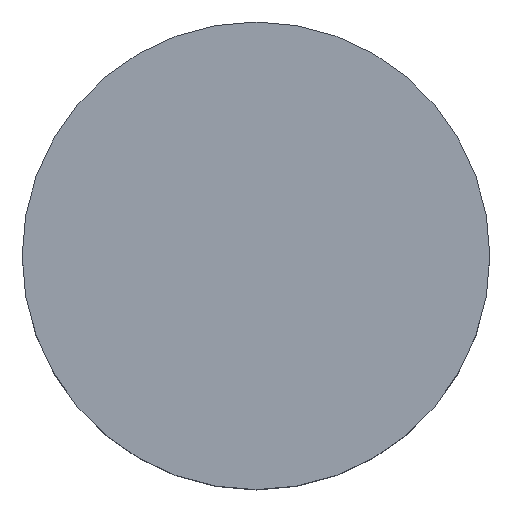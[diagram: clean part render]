
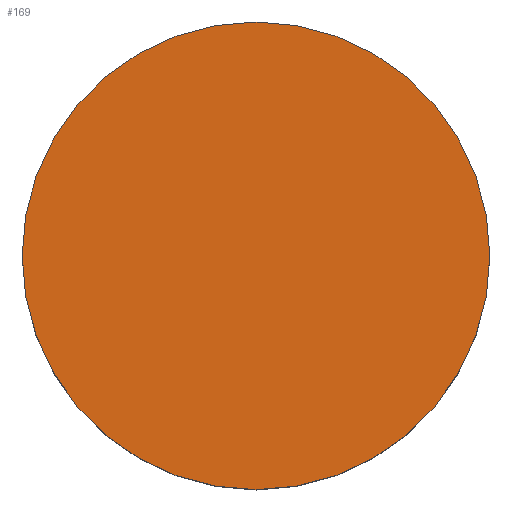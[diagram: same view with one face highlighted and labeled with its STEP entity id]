
A CAD part, top view. The second image highlights one B-rep face of the part: STEP entity #169.
In plain terms, the highlighted planar face has unit normal (0, 0, 1).
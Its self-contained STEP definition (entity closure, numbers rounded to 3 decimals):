
#169=ADVANCED_FACE('',(#209),#200,.T.);
#200=PLANE('',#534);
#209=FACE_OUTER_BOUND('',#233,.T.);
#233=EDGE_LOOP('',(#271,#272));
#271=ORIENTED_EDGE('',*,*,#429,.F.);
#272=ORIENTED_EDGE('',*,*,#430,.F.);
#391=VERTEX_POINT('',#773);
#392=VERTEX_POINT('',#774);
#429=EDGE_CURVE('',#391,#392,#489,.T.);
#430=EDGE_CURVE('',#392,#391,#490,.T.);
#489=CIRCLE('',#532,6.5);
#490=CIRCLE('',#533,6.5);
#532=AXIS2_PLACEMENT_3D('',#772,#607,#608);
#533=AXIS2_PLACEMENT_3D('',#775,#609,#610);
#534=AXIS2_PLACEMENT_3D('',#776,#611,#612);
#607=DIRECTION('',(0.,0.,-1.));
#608=DIRECTION('',(0.,1.,0.));
#609=DIRECTION('',(0.,0.,-1.));
#610=DIRECTION('',(0.,-1.,0.));
#611=DIRECTION('',(0.,0.,1.));
#612=DIRECTION('',(0.,-1.,0.));
#772=CARTESIAN_POINT('',(0.,0.,5.));
#773=CARTESIAN_POINT('',(6.5,0.,5.));
#774=CARTESIAN_POINT('',(-6.5,0.,5.));
#775=CARTESIAN_POINT('',(0.,0.,5.));
#776=CARTESIAN_POINT('',(0.,0.,5.));
